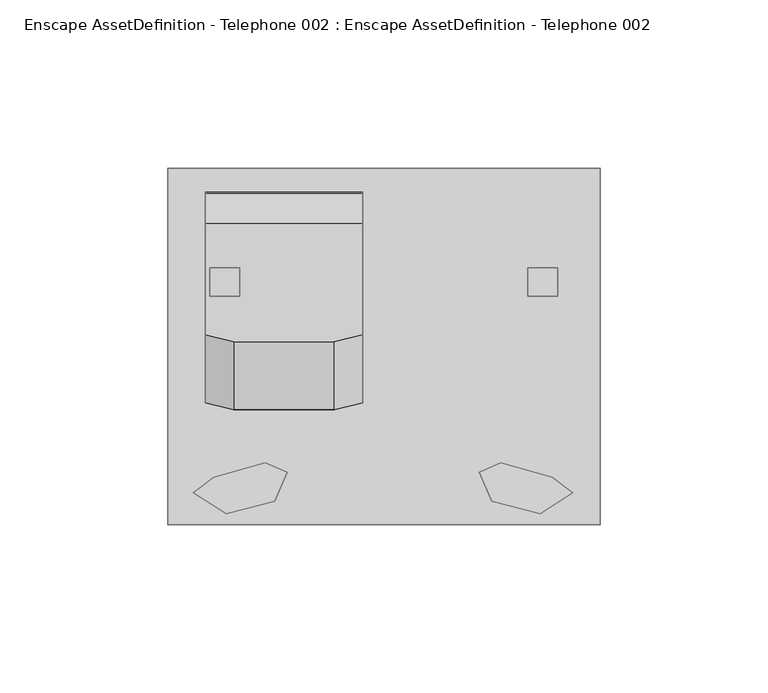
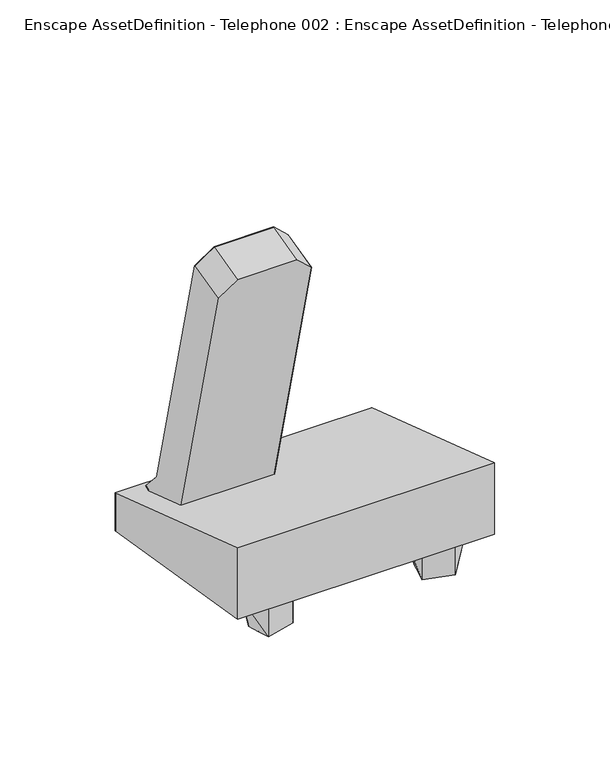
"""IFC4 building model written with IfcOpenShell, lengths in millimetres: geographic element geometry, Enscape AssetDefinition - Telephone 002 : Enscape AssetDefinition - Telephone 002."""

import ifcopenshell
import ifcopenshell.guid

model = None  # the IFC model being written
_history = None  # IfcOwnerHistory: only IFC2X3 demands one
_inside = {}  # id of a spatial element -> (the spatial element, [elements in it])
_under = {}  # id of a project, library or spatial element -> (it, [spatial elements below it])
_declared = {}  # id of a project -> (the project, [libraries it declares])
_typed = {}  # id of a type object -> (the type object, [elements of that type])
_made_of = {}  # id of a material, layer set ... -> (it, [elements and type objects made of it])


def new_model(schema):
    """Start an empty IFC model of exactly this schema.

    Asked for "IFC4X3", IfcOpenShell would pick the latest addendum, in which some entities
    have other attributes; the version numbers below select the first issue.
    IFC2X3 requires an IfcOwnerHistory on every rooted entity: one is made here for all.
    """
    global model, _history
    if schema == "IFC4X3":
        model = ifcopenshell.file(schema_version=(4, 3, 0, 0))
    else:
        model = ifcopenshell.file(schema=schema)
    _inside.clear()
    _under.clear()
    _declared.clear()
    _typed.clear()
    _made_of.clear()
    _history = None
    if model.schema == "IFC2X3":
        org = make("IfcOrganization", Name="unknown")
        user = make(
            "IfcPersonAndOrganization",
            ThePerson=make("IfcPerson", FamilyName="unknown"),
            TheOrganization=org,
        )
        app = make(
            "IfcApplication",
            ApplicationDeveloper=org,
            Version="unknown",
            ApplicationFullName="unknown",
            ApplicationIdentifier="unknown",
        )
        _history = make(
            "IfcOwnerHistory",
            OwningUser=user,
            OwningApplication=app,
            ChangeAction="ADDED",
            CreationDate=0,
        )
    return model


def make(cls, **values):
    """One entity of the class cls with the attributes given. An attribute that is None is left unset."""
    return model.create_entity(
        cls, **{name: value for name, value in values.items() if value is not None}
    )


def rooted(cls, **values):
    """An entity with a GlobalId (a new one), such as an element, a storey or a relation."""
    return make(cls, GlobalId=ifcopenshell.guid.new(), OwnerHistory=_history, **values)


def si_unit(unit_type, name, prefix=None):
    """IfcSIUnit, for example si_unit("LENGTHUNIT", "METRE", prefix="MILLI")."""
    return make("IfcSIUnit", UnitType=unit_type, Prefix=prefix, Name=name)


def assignment(units):
    """IfcUnitAssignment: the units of a project."""
    return None if units is None else make("IfcUnitAssignment", Units=units)


def point(xyz):
    """IfcCartesianPoint."""
    return None if xyz is None else make("IfcCartesianPoint", Coordinates=xyz)


def direction(xyz):
    """IfcDirection."""
    return None if xyz is None else make("IfcDirection", DirectionRatios=xyz)


def frame(location, z_axis=None, x_axis=None):
    """IfcAxis2Placement3D, a coordinate frame: its origin and axes. An axis left out is left unset."""
    return make(
        "IfcAxis2Placement3D",
        Location=point(location),
        Axis=direction(z_axis),
        RefDirection=direction(x_axis),
    )


def origin():
    """The frame at (0, 0, 0) with its axes left unset."""
    return frame((0.0, 0.0, 0.0))


def place(relative_to, where):
    """IfcLocalPlacement: puts the frame where relative to a parent placement (None: the world)."""
    return make(
        "IfcLocalPlacement", PlacementRelTo=relative_to, RelativePlacement=where
    )


def context(
    kind, dimensions, precision=None, world=None, true_north=None, identifier=None
):
    """IfcGeometricRepresentationContext, for example the 3D "Model" context."""
    return make(
        "IfcGeometricRepresentationContext",
        ContextIdentifier=identifier,
        ContextType=kind,
        CoordinateSpaceDimension=dimensions,
        Precision=precision,
        WorldCoordinateSystem=world,
        TrueNorth=true_north,
    )


def project(units=None, contexts=None):
    """IfcProject with its units and contexts."""
    return rooted(
        "IfcProject",
        Name="project",
        RepresentationContexts=contexts,
        UnitsInContext=assignment(units),
    )


def spatial(cls, under=None, at=None, **own):
    """A site, building, storey or space (cls), placed at a placement, below another one or the project."""
    s = rooted(cls, ObjectPlacement=at, **own)
    if under is not None:
        _under.setdefault(under.id(), (under, []))[1].append(s)
    return s


def point_list(points):
    """IfcCartesianPointList2D or 3D."""
    cls = (
        "IfcCartesianPointList2D" if len(points[0]) == 2 else "IfcCartesianPointList3D"
    )
    return make(cls, CoordList=points)


def triangles(points, corners, closed=None, point_numbers=None):
    """IfcTriangulatedFaceSet: each triangle names its three corners, points numbered from 1."""
    return make(
        "IfcTriangulatedFaceSet",
        Coordinates=point_list(points),
        Closed=closed,
        CoordIndex=corners,
        PnIndex=point_numbers,
    )


def shape(context_of_items, identifier, shape_type, items):
    """IfcShapeRepresentation: the items that make up one representation, for example the "Body"."""
    return make(
        "IfcShapeRepresentation",
        ContextOfItems=context_of_items,
        RepresentationIdentifier=identifier,
        RepresentationType=shape_type,
        Items=items,
    )


def source(mapping_origin, context_of_items, identifier, shape_type, items):
    """IfcRepresentationMap: a shape defined once, which mapped items show again and again."""
    return make(
        "IfcRepresentationMap",
        MappingOrigin=mapping_origin,
        MappedRepresentation=shape(context_of_items, identifier, shape_type, items),
    )


def transform(
    local_origin,
    x_axis=None,
    y_axis=None,
    z_axis=None,
    scale=None,
    scale2=None,
    scale3=None,
    uniform=True,
):
    """IfcCartesianTransformationOperator3D, or its non-uniform kind. x_axis, y_axis, z_axis: its Axis1, 2, 3."""
    if uniform:
        return make(
            "IfcCartesianTransformationOperator3D",
            Axis1=direction(x_axis),
            Axis2=direction(y_axis),
            LocalOrigin=point(local_origin),
            Scale=scale,
            Axis3=direction(z_axis),
        )
    return make(
        "IfcCartesianTransformationOperator3DnonUniform",
        Axis1=direction(x_axis),
        Axis2=direction(y_axis),
        LocalOrigin=point(local_origin),
        Scale=scale,
        Axis3=direction(z_axis),
        Scale2=scale2,
        Scale3=scale3,
    )


def mapped(mapping_source, mapping_target):
    """IfcMappedItem: shows the shape of a source again, moved by a transform."""
    return make(
        "IfcMappedItem", MappingSource=mapping_source, MappingTarget=mapping_target
    )


def made_of(thing, what):
    """Note that an element or type object is made of a material, layer set ...; save() writes the relation."""
    if what is not None:
        _made_of.setdefault(what.id(), (what, []))[1].append(thing)
    return thing


def element(
    cls,
    number,
    at=None,
    inside=None,
    cuts=None,
    type_object=None,
    material=None,
    context=None,
    identifier="Body",
    shape_type=None,
    held_by="IfcProductDefinitionShape",
    body=None,
    shapes=None,
    **own,
):
    """One element of the class cls, such as IfcWall. Its Tag is "e" and its number.

    at: its placement. inside: the storey or other place that contains it. cuts: it is an
    opening in that element (IfcRelVoidsElement). A single representation is given by context,
    identifier, shape_type and body (its items); several are given by shapes. held_by: the class
    of the entity that holds the representations. save() writes the other relations.
    """
    e = rooted(cls, Tag="e%d" % number, ObjectPlacement=at, **own)
    if body is not None:
        shapes = [shape(context, identifier, shape_type, body)]
    if shapes is not None:
        e.Representation = make(held_by, Representations=shapes)
    if inside is not None:
        _inside.setdefault(inside.id(), (inside, []))[1].append(e)
    if cuts is not None:
        rooted(
            "IfcRelVoidsElement", RelatingBuildingElement=cuts, RelatedOpeningElement=e
        )
    if type_object is not None:
        _typed.setdefault(type_object.id(), (type_object, []))[1].append(e)
    return made_of(e, material)


def aggregate(whole, parts):
    """IfcRelAggregates: a whole, such as a stair, and the parts it consists of."""
    return rooted("IfcRelAggregates", RelatingObject=whole, RelatedObjects=parts)


def save(model, path):
    """Write the relations noted so far, then the file.

    IfcRelAggregates (storeys below a building ...), IfcRelContainedInSpatialStructure (elements
    in a storey), IfcRelDefinesByType, IfcRelAssociatesMaterial and IfcRelDeclares: one each for
    every whole, place, type object, material and project.
    """
    for whole, parts in _under.values():
        aggregate(whole, parts)
    for where, things in _inside.values():
        rooted(
            "IfcRelContainedInSpatialStructure",
            RelatedElements=things,
            RelatingStructure=where,
        )
    for kind, things in _typed.values():
        rooted("IfcRelDefinesByType", RelatedObjects=things, RelatingType=kind)
    for what, things in _made_of.values():
        rooted("IfcRelAssociatesMaterial", RelatedObjects=things, RelatingMaterial=what)
    for by, libraries in _declared.values():
        rooted("IfcRelDeclares", RelatingContext=by, RelatedDefinitions=libraries)
    model.write(path)


def enscape_assetdefinition_telephone_002_enscape_e00bfed8(model_context):
    return source(origin(), model_context, "Body", "Tessellation", [
        triangles([(64.360997, -55.4820013, 17.0990006), (-64.2580009, -55.4820013, 17.0990006), (-64.2580009, 50.6649989, -0.499), (64.360997, 50.6649989, -0.499), (-64.2580009, -55.4820013, 54.9930005), (64.360997, -55.4820013, 54.9930005), (-64.2580009, 50.6649989, 19.6679992), (64.360997, 50.6649989, 19.6679992), (32.1000006, -48.5259988, 19.1259992), (46.5620017, -52.2739986, 19.1259992), (46.5620017, -52.2739986, 0.0), (50.1479973, -41.4210001, 0.0), (48.3549972, -46.8469997, 0.0), (33.466001, -42.8150011, 0.0), (32.1000006, -48.5259988, 0.0), (28.3539992, -39.9070027, 19.1259992), (34.8329983, -37.1039988, 19.1259992), (34.8329983, -37.1039988, 0.0), (56.2780011, -45.9810006, 19.1259992), (50.1479973, -41.4210001, 19.1259992), (-46.9720012, -52.2739986, 19.1259992), (-32.5100001, -48.5259988, 19.1259992), (-56.6880006, -45.9810006, 19.1259992), (-46.9720012, -52.2739986, 0.0), (-32.5100001, -48.5259988, 0.0), (-33.8760027, -42.8150011, 0.0), (-35.2419986, -37.1039988, 0.0), (-28.764001, -39.9070027, 19.1259992), (-50.5569976, -41.4210001, 0.0), (-48.7650013, -46.8469997, 0.0), (-50.5569976, -41.4210001, 19.1259992), (-35.2419986, -37.1039988, 19.1259992), (42.860002, 12.4549992, 12.8730004), (42.860002, 21.0539997, 12.8730004), (42.860002, 12.4549992, 0.0), (51.7690012, 12.4549992, 12.8730004), (51.7690012, 12.4549992, 0.0), (42.860002, 21.0539997, 0.0), (51.7690012, 21.0539997, 0.0), (51.7690012, 21.0539997, 12.8730004), (-42.8919995, 21.0539997, 12.8730004), (-51.7999995, 12.4549992, 12.8730004), (-42.8919995, 12.4549992, 0.0), (-51.7999995, 12.4549992, 0.0), (-51.7999995, 21.0539997, 12.8730004), (-51.7999995, 21.0539997, 0.0), (-42.8919995, 21.0539997, 0.0), (-42.8919995, 12.4549992, 12.8730004), (-44.7040028, -21.3200013, 169.2550032), (-44.7040028, -1.0189999, 174.3389952), (-14.7740006, -1.0189999, 174.3389952), (-53.1810017, -19.2609996, 161.0320131), (-6.2970005, 16.9410001, 16.4610001), (-53.1810017, 16.9410001, 16.4610001), (-14.7740006, -21.3200013, 169.2550032), (-6.2970005, -19.2609996, 161.0320131), (-6.2970005, 34.0540011, 34.2770002), (-6.2970005, 43.425002, 24.046), (-53.1810017, 43.425002, 24.046), (-53.1810017, 34.0540011, 34.2770002), (-6.2970005, 1.04, 166.1160051), (-53.1810017, 1.04, 166.1160051), (-6.2970005, 37.2419991, 21.5439997), (-53.1810017, 37.2419991, 21.5439997)], [[64, 54, 59], [64, 59, 63], [58, 63, 59], [60, 59, 54], [52, 62, 54], [60, 54, 62], [62, 61, 60], [61, 57, 60], [58, 59, 57], [60, 57, 59], [58, 57, 63], [53, 63, 57], [53, 57, 56], [61, 56, 57], [55, 56, 51], [61, 51, 56], [50, 61, 62], [51, 61, 50], [50, 62, 49], [52, 49, 62], [49, 53, 56], [55, 49, 56], [54, 53, 49], [52, 54, 49], [55, 51, 49], [50, 49, 51], [43, 47, 48], [41, 48, 47], [47, 46, 41], [45, 41, 46], [46, 44, 45], [48, 42, 43], [44, 43, 42], [42, 45, 44], [48, 41, 42], [45, 42, 41], [37, 39, 36], [40, 36, 39], [39, 38, 40], [34, 40, 38], [38, 35, 34], [36, 33, 37], [35, 37, 33], [33, 34, 35], [36, 40, 33], [34, 33, 40], [28, 27, 32], [32, 27, 31], [29, 31, 27], [31, 29, 23], [23, 29, 30], [28, 26, 27], [27, 26, 29], [30, 29, 26], [28, 25, 26], [22, 25, 28], [23, 24, 21], [23, 30, 24], [25, 22, 24], [21, 24, 22], [30, 26, 24], [25, 24, 26], [19, 12, 20], [17, 20, 18], [12, 18, 20], [17, 18, 16], [16, 15, 9], [14, 15, 16], [18, 14, 16], [18, 12, 14], [13, 12, 19], [13, 14, 12], [10, 11, 19], [11, 13, 19], [10, 9, 11], [15, 11, 9], [15, 14, 11], [13, 11, 14], [6, 8, 5], [7, 5, 8], [7, 8, 3], [8, 6, 4], [4, 3, 8], [6, 5, 1], [1, 4, 6], [2, 1, 5], [5, 7, 2], [3, 2, 7], [3, 4, 2], [1, 2, 4]], closed=False),
    ])


if __name__ == "__main__":
    model = new_model("IFC4")
    model_context = context("Model", 3, world=origin())
    ifc_project = project(units=[si_unit("LENGTHUNIT", "METRE", prefix="MILLI")], contexts=[model_context])
    site = spatial("IfcSite", under=ifc_project)
    building = spatial("IfcBuilding", under=site)
    placement = place(None, origin())
    enscape_assetdefinition_telephone_002_enscape_shape = enscape_assetdefinition_telephone_002_enscape_e00bfed8(model_context)
    element("IfcGeographicElement", 1, ObjectType="Enscape AssetDefinition - Telephone 002 : Enscape AssetDefinition - Telephone 002", at=placement, inside=building, context=model_context, shape_type="MappedRepresentation", body=[
        mapped(enscape_assetdefinition_telephone_002_enscape_shape, transform((0.0, 0.0, 0.0), x_axis=(1.0, 0.0, 0.0), y_axis=(0.0, 1.0, 0.0), z_axis=(0.0, 0.0, 1.0))),
    ])
    save(model, "model.ifc")
